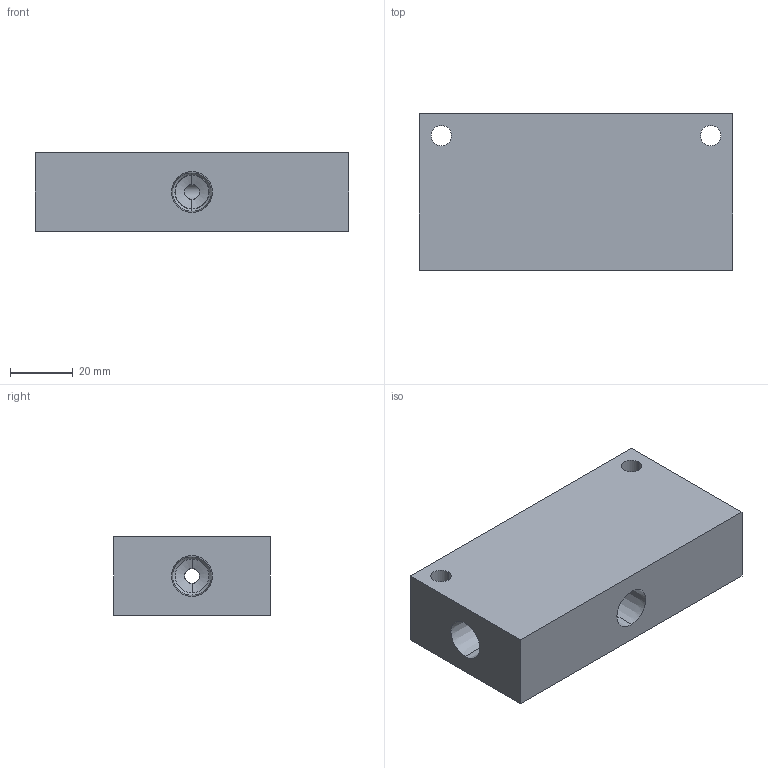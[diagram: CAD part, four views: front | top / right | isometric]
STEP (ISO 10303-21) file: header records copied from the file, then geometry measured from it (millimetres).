
FILE_DESCRIPTION (( 'STEP AP214' ), '1' );
FILE_NAME ('MFPS04-5.STEP', '2026-05-15T07:30:10', ( '' ), ( '' ), 'SwSTEP 2.0', 'SolidWorks 2023', '' );
FILE_SCHEMA (( 'AUTOMOTIVE_DESIGN' ));
Length unit declared in the file: millimetre
Products named in the file (1): MFPS04-5
Bounding box: 100 x 50 x 25 mm (x, y, z)
Volume: 112484.7 mm3; surface area: 22342.4 mm2
Topology: 1 solids, 1 shells, 61 faces, 138 edges, 76 vertices
Faces by surface type: cone 36, cylinder 19, plane 6
Entity records: 1713 total; most frequent: DIRECTION 310, CARTESIAN_POINT 306, ORIENTED_EDGE 276, EDGE_CURVE 138, AXIS2_PLACEMENT_3D 120, VERTEX_POINT 76, VECTOR 70, EDGE_LOOP 70
